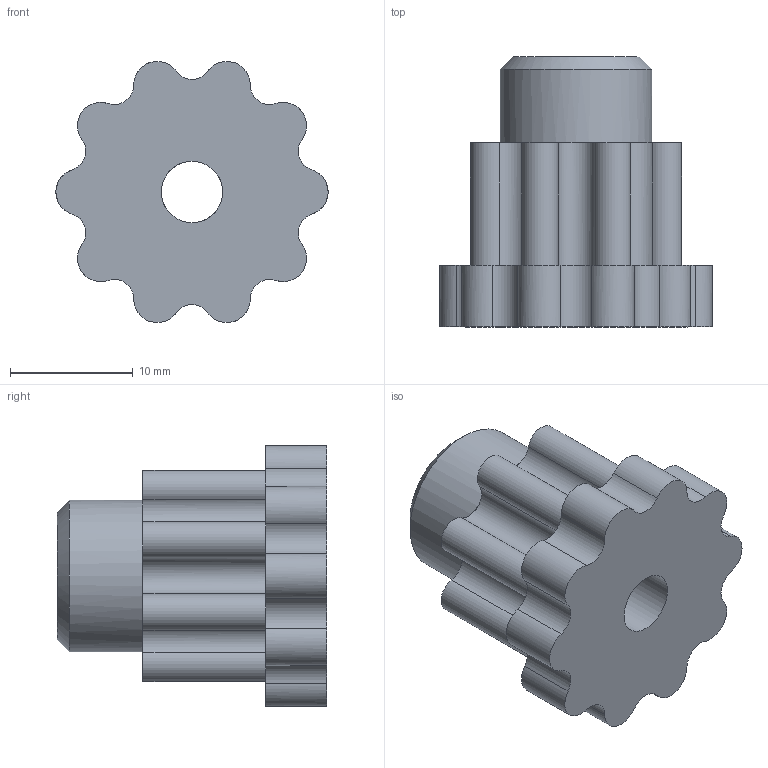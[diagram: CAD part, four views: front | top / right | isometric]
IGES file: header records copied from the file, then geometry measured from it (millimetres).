
Global section: file name: b810 v2; native system: unknown; preprocessor: unknown; author: unknown; organization: unknown; date: 20161221.233900; units: millimetre
Bounding box: 22.18 x 22 x 21.28 mm (x, y, z)
Volume: 3914.1 mm3; surface area: 2356 mm2
Topology: 1 solids, 1 shells, 51 faces, 138 edges, 90 vertices
Faces by surface type: bspline 51
